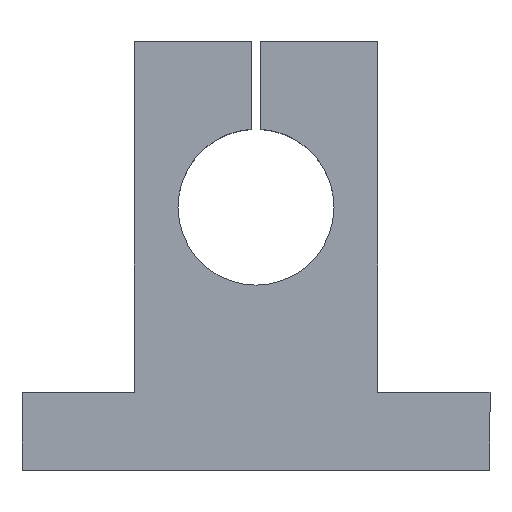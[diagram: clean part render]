
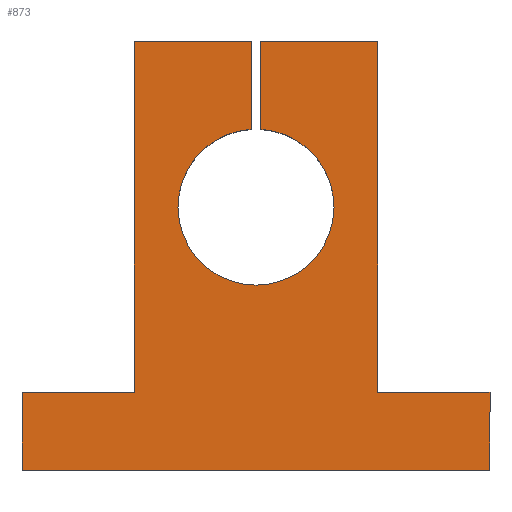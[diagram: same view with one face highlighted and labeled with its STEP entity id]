
A CAD part, top view. The second image highlights one B-rep face of the part: STEP entity #873.
In plain terms, the highlighted planar face has unit normal (0, 0, 1).
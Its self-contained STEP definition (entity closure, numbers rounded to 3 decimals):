
#51=CARTESIAN_POINT('',(32.302,24.903,16.0));
#52=VERTEX_POINT('',#51);
#59=CARTESIAN_POINT('',(24.802,32.888,16.0));
#60=VERTEX_POINT('',#59);
#61=CARTESIAN_POINT('',(24.302,24.903,16.0));
#62=DIRECTION('',(0.0,0.0,-1.0));
#63=DIRECTION('',(-1.0,0.0,0.0));
#64=AXIS2_PLACEMENT_3D('',#61,#62,#63);
#65=CIRCLE('',#64,8.0);
#66=EDGE_CURVE('',#60,#52,#65,.T.);
#91=CARTESIAN_POINT('',(16.302,24.903,16.0));
#92=VERTEX_POINT('',#91);
#101=CARTESIAN_POINT('',(24.302,24.903,16.0));
#102=DIRECTION('',(0.0,0.0,-1.0));
#103=DIRECTION('',(-1.0,0.0,0.0));
#104=AXIS2_PLACEMENT_3D('',#101,#102,#103);
#105=CIRCLE('',#104,8.0);
#106=EDGE_CURVE('',#52,#92,#105,.T.);
#590=CARTESIAN_POINT('',(23.802,32.888,16.0));
#591=VERTEX_POINT('',#590);
#606=CARTESIAN_POINT('',(23.802,41.903,16.0));
#607=VERTEX_POINT('',#606);
#614=CARTESIAN_POINT('',(23.802,32.888,16.0));
#615=DIRECTION('',(0.0,1.0,0.0));
#616=VECTOR('',#615,9.016);
#617=LINE('',#614,#616);
#618=EDGE_CURVE('',#591,#607,#617,.T.);
#633=CARTESIAN_POINT('',(24.802,41.903,16.0));
#634=VERTEX_POINT('',#633);
#635=CARTESIAN_POINT('',(24.802,41.903,16.0));
#636=DIRECTION('',(0.0,-1.0,0.0));
#637=VECTOR('',#636,9.016);
#638=LINE('',#635,#637);
#639=EDGE_CURVE('',#634,#60,#638,.T.);
#676=CARTESIAN_POINT('',(11.802,41.903,16.0));
#677=VERTEX_POINT('',#676);
#684=CARTESIAN_POINT('',(11.802,41.903,16.0));
#685=DIRECTION('',(1.0,0.0,0.0));
#686=VECTOR('',#685,12.);
#687=LINE('',#684,#686);
#688=EDGE_CURVE('',#677,#607,#687,.T.);
#699=CARTESIAN_POINT('',(36.802,41.903,16.0));
#700=VERTEX_POINT('',#699);
#701=CARTESIAN_POINT('',(24.802,41.903,16.0));
#702=DIRECTION('',(1.0,0.0,0.0));
#703=VECTOR('',#702,12.0);
#704=LINE('',#701,#703);
#705=EDGE_CURVE('',#634,#700,#704,.T.);
#799=CARTESIAN_POINT('',(24.302,15.403,16.0));
#800=DIRECTION('',(0.0,0.0,1.0));
#801=DIRECTION('',(1.0,0.0,0.0));
#802=AXIS2_PLACEMENT_3D('',#799,#800,#801);
#803=PLANE('',#802);
#804=ORIENTED_EDGE('',*,*,#618,.T.);
#805=ORIENTED_EDGE('',*,*,#688,.F.);
#806=CARTESIAN_POINT('',(11.802,5.903,16.0));
#807=VERTEX_POINT('',#806);
#808=CARTESIAN_POINT('',(11.802,5.903,16.0));
#809=DIRECTION('',(0.0,1.0,0.0));
#810=VECTOR('',#809,36.0);
#811=LINE('',#808,#810);
#812=EDGE_CURVE('',#807,#677,#811,.T.);
#813=ORIENTED_EDGE('',*,*,#812,.F.);
#814=CARTESIAN_POINT('',(0.302,5.903,16.0));
#815=VERTEX_POINT('',#814);
#816=CARTESIAN_POINT('',(0.302,5.903,16.0));
#817=DIRECTION('',(1.0,0.0,0.0));
#818=VECTOR('',#817,11.5);
#819=LINE('',#816,#818);
#820=EDGE_CURVE('',#815,#807,#819,.T.);
#821=ORIENTED_EDGE('',*,*,#820,.F.);
#822=CARTESIAN_POINT('',(0.302,-2.097,16.0));
#823=VERTEX_POINT('',#822);
#824=CARTESIAN_POINT('',(0.302,-2.097,16.0));
#825=DIRECTION('',(0.0,1.0,0.0));
#826=VECTOR('',#825,8.0);
#827=LINE('',#824,#826);
#828=EDGE_CURVE('',#823,#815,#827,.T.);
#829=ORIENTED_EDGE('',*,*,#828,.F.);
#830=CARTESIAN_POINT('',(48.302,-2.097,16.0));
#831=VERTEX_POINT('',#830);
#832=CARTESIAN_POINT('',(48.302,-2.097,16.0));
#833=DIRECTION('',(-1.0,0.0,0.0));
#834=VECTOR('',#833,48.);
#835=LINE('',#832,#834);
#836=EDGE_CURVE('',#831,#823,#835,.T.);
#837=ORIENTED_EDGE('',*,*,#836,.F.);
#838=CARTESIAN_POINT('',(48.302,5.903,16.0));
#839=VERTEX_POINT('',#838);
#840=CARTESIAN_POINT('',(48.302,5.903,16.0));
#841=DIRECTION('',(0.0,-1.0,0.0));
#842=VECTOR('',#841,8.0);
#843=LINE('',#840,#842);
#844=EDGE_CURVE('',#839,#831,#843,.T.);
#845=ORIENTED_EDGE('',*,*,#844,.F.);
#846=CARTESIAN_POINT('',(36.802,5.903,16.0));
#847=VERTEX_POINT('',#846);
#848=CARTESIAN_POINT('',(36.802,5.903,16.0));
#849=DIRECTION('',(1.0,0.0,0.0));
#850=VECTOR('',#849,11.5);
#851=LINE('',#848,#850);
#852=EDGE_CURVE('',#847,#839,#851,.T.);
#853=ORIENTED_EDGE('',*,*,#852,.F.);
#854=CARTESIAN_POINT('',(36.802,41.903,16.0));
#855=DIRECTION('',(0.0,-1.0,0.0));
#856=VECTOR('',#855,36.0);
#857=LINE('',#854,#856);
#858=EDGE_CURVE('',#700,#847,#857,.T.);
#859=ORIENTED_EDGE('',*,*,#858,.F.);
#860=ORIENTED_EDGE('',*,*,#705,.F.);
#861=ORIENTED_EDGE('',*,*,#639,.T.);
#862=ORIENTED_EDGE('',*,*,#66,.T.);
#863=ORIENTED_EDGE('',*,*,#106,.T.);
#864=CARTESIAN_POINT('',(24.302,24.903,16.0));
#865=DIRECTION('',(0.0,0.0,-1.0));
#866=DIRECTION('',(-1.0,0.0,0.0));
#867=AXIS2_PLACEMENT_3D('',#864,#865,#866);
#868=CIRCLE('',#867,8.0);
#869=EDGE_CURVE('',#92,#591,#868,.T.);
#870=ORIENTED_EDGE('',*,*,#869,.T.);
#871=EDGE_LOOP('',(#804,#805,#813,#821,#829,#837,#845,#853,#859,#860,#861,#862,#863,#870));
#872=FACE_OUTER_BOUND('',#871,.T.);
#873=ADVANCED_FACE('',(#872),#803,.T.);
